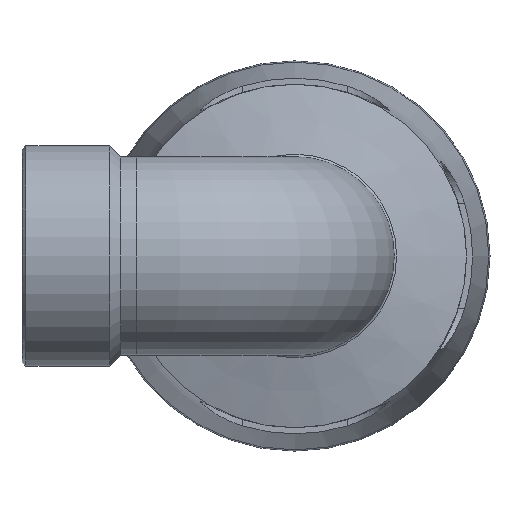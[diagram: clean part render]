
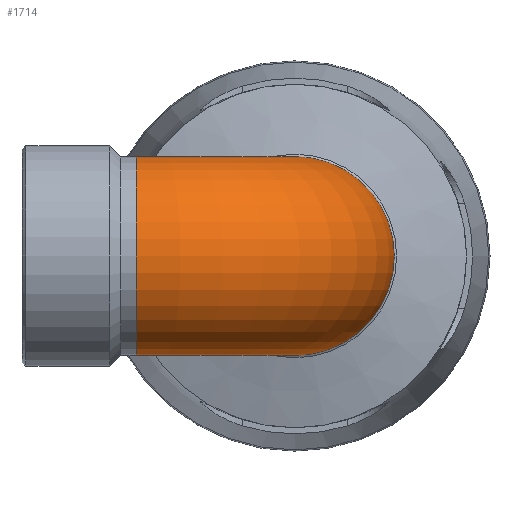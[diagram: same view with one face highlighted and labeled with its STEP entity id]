
A CAD part, left-side view. The second image highlights one B-rep face of the part: STEP entity #1714.
In plain terms, the highlighted toroidal (fillet/blend) face has major radius 41.84 mm and minor radius 26.234 mm.
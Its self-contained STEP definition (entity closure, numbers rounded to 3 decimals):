
#356=FACE_BOUND('',#509,.T.);
#384=FACE_OUTER_BOUND('',#508,.T.);
#508=EDGE_LOOP('',(#1160));
#509=EDGE_LOOP('',(#1161));
#615=CIRCLE('',#1814,26.234);
#621=CIRCLE('',#1824,26.234);
#710=VERTEX_POINT('',#2509);
#716=VERTEX_POINT('',#2525);
#869=EDGE_CURVE('',#710,#710,#615,.T.);
#875=EDGE_CURVE('',#716,#716,#621,.T.);
#1160=ORIENTED_EDGE('',*,*,#869,.F.);
#1161=ORIENTED_EDGE('',*,*,#875,.T.);
#1586=TOROIDAL_SURFACE('',#1868,41.84,26.234);
#1714=ADVANCED_FACE('',(#384,#356),#1586,.T.);
#1814=AXIS2_PLACEMENT_3D('',#2510,#2025,#2026);
#1824=AXIS2_PLACEMENT_3D('',#2526,#2045,#2046);
#1868=AXIS2_PLACEMENT_3D('',#2604,#2133,#2134);
#2025=DIRECTION('center_axis',(1.,0.,0.));
#2026=DIRECTION('ref_axis',(0.,-1.,0.));
#2045=DIRECTION('center_axis',(0.,-1.,0.));
#2046=DIRECTION('ref_axis',(-1.,0.,0.));
#2133=DIRECTION('center_axis',(0.,0.,1.));
#2134=DIRECTION('ref_axis',(1.,0.,0.));
#2509=CARTESIAN_POINT('',(41.84,26.234,0.));
#2510=CARTESIAN_POINT('Origin',(41.84,0.,0.));
#2525=CARTESIAN_POINT('',(26.234,41.84,0.));
#2526=CARTESIAN_POINT('Origin',(0.,41.84,0.));
#2604=CARTESIAN_POINT('Origin',(41.84,41.84,0.));
